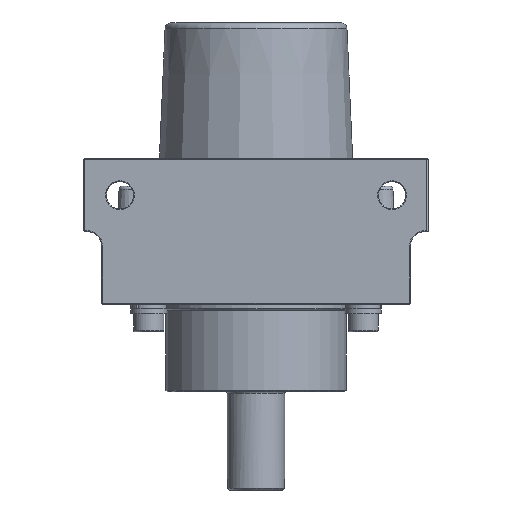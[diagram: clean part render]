
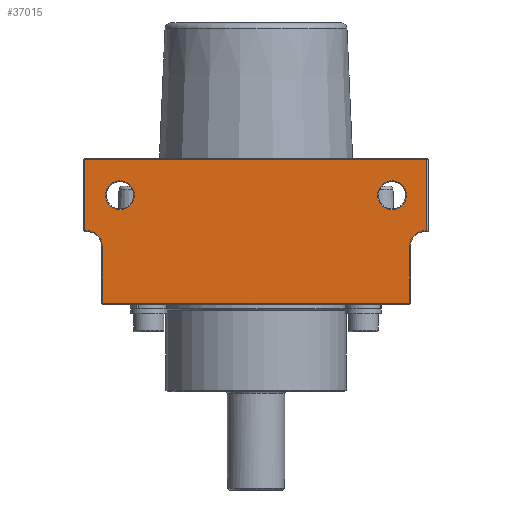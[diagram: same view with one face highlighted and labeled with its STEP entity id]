
A CAD part, left-side view. The second image highlights one B-rep face of the part: STEP entity #37015.
In plain terms, the highlighted planar face has unit normal (-1, 0, 0) as drawn and (0, -1, 0) by its records, which use the part's own axes.
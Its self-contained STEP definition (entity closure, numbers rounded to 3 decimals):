
#4250=FACE_BOUND('',#9218,.T.);
#4251=FACE_BOUND('',#9219,.T.);
#4790=PLANE('',#39880);
#6867=FACE_OUTER_BOUND('',#9217,.T.);
#9217=EDGE_LOOP('',(#34264,#34265,#34266,#34267,#34268,#34269,#34270,#34271,
#34272,#34273));
#9218=EDGE_LOOP('',(#34274));
#9219=EDGE_LOOP('',(#34275));
#11357=LINE('',#91111,#13536);
#11358=LINE('',#91113,#13537);
#11359=LINE('',#91115,#13538);
#11360=LINE('',#91117,#13539);
#11361=LINE('',#91121,#13540);
#11362=LINE('',#91123,#13541);
#11363=LINE('',#91125,#13542);
#11364=LINE('',#91128,#13543);
#13536=VECTOR('',#46446,10.);
#13537=VECTOR('',#46447,10.);
#13538=VECTOR('',#46448,10.);
#13539=VECTOR('',#46449,10.);
#13540=VECTOR('',#46452,10.);
#13541=VECTOR('',#46453,10.);
#13542=VECTOR('',#46454,10.);
#13543=VECTOR('',#46457,10.);
#14666=CIRCLE('',#39877,4.75);
#14669=CIRCLE('',#39881,5.25);
#14670=CIRCLE('',#39882,5.25);
#14671=CIRCLE('',#39883,4.75);
#18156=VERTEX_POINT('',#91101);
#18159=VERTEX_POINT('',#91109);
#18160=VERTEX_POINT('',#91110);
#18161=VERTEX_POINT('',#91112);
#18162=VERTEX_POINT('',#91114);
#18163=VERTEX_POINT('',#91116);
#18164=VERTEX_POINT('',#91118);
#18165=VERTEX_POINT('',#91120);
#18166=VERTEX_POINT('',#91122);
#18167=VERTEX_POINT('',#91124);
#18168=VERTEX_POINT('',#91126);
#18169=VERTEX_POINT('',#91129);
#23546=EDGE_CURVE('',#18156,#18156,#14666,.T.);
#23550=EDGE_CURVE('',#18159,#18160,#11357,.T.);
#23551=EDGE_CURVE('',#18161,#18159,#11358,.T.);
#23552=EDGE_CURVE('',#18162,#18161,#11359,.T.);
#23553=EDGE_CURVE('',#18163,#18162,#11360,.T.);
#23554=EDGE_CURVE('',#18164,#18163,#14669,.T.);
#23555=EDGE_CURVE('',#18165,#18164,#11361,.T.);
#23556=EDGE_CURVE('',#18166,#18165,#11362,.T.);
#23557=EDGE_CURVE('',#18167,#18166,#11363,.T.);
#23558=EDGE_CURVE('',#18168,#18167,#14670,.T.);
#23559=EDGE_CURVE('',#18160,#18168,#11364,.T.);
#23560=EDGE_CURVE('',#18169,#18169,#14671,.T.);
#34264=ORIENTED_EDGE('',*,*,#23550,.F.);
#34265=ORIENTED_EDGE('',*,*,#23551,.F.);
#34266=ORIENTED_EDGE('',*,*,#23552,.F.);
#34267=ORIENTED_EDGE('',*,*,#23553,.F.);
#34268=ORIENTED_EDGE('',*,*,#23554,.F.);
#34269=ORIENTED_EDGE('',*,*,#23555,.F.);
#34270=ORIENTED_EDGE('',*,*,#23556,.F.);
#34271=ORIENTED_EDGE('',*,*,#23557,.F.);
#34272=ORIENTED_EDGE('',*,*,#23558,.F.);
#34273=ORIENTED_EDGE('',*,*,#23559,.F.);
#34274=ORIENTED_EDGE('',*,*,#23560,.F.);
#34275=ORIENTED_EDGE('',*,*,#23546,.F.);
#37015=ADVANCED_FACE('',(#6867,#4250,#4251),#4790,.T.);
#39877=AXIS2_PLACEMENT_3D('',#91102,#46437,#46438);
#39880=AXIS2_PLACEMENT_3D('',#91108,#46444,#46445);
#39881=AXIS2_PLACEMENT_3D('',#91119,#46450,#46451);
#39882=AXIS2_PLACEMENT_3D('',#91127,#46455,#46456);
#39883=AXIS2_PLACEMENT_3D('',#91130,#46458,#46459);
#46437=DIRECTION('center_axis',(0.,-1.,0.));
#46438=DIRECTION('ref_axis',(-1.,0.,0.));
#46444=DIRECTION('center_axis',(0.,-1.,0.));
#46445=DIRECTION('ref_axis',(1.,0.,0.));
#46446=DIRECTION('',(0.,0.,-1.));
#46447=DIRECTION('',(1.,0.,0.));
#46448=DIRECTION('',(0.,0.,1.));
#46449=DIRECTION('',(-1.,0.,0.));
#46450=DIRECTION('center_axis',(0.,-1.,0.));
#46451=DIRECTION('ref_axis',(0.707,0.,0.707));
#46452=DIRECTION('',(0.,0.,1.));
#46453=DIRECTION('',(-1.,0.,0.));
#46454=DIRECTION('',(0.,0.,-1.));
#46455=DIRECTION('center_axis',(0.,-1.,0.));
#46456=DIRECTION('ref_axis',(-0.707,0.,0.707));
#46457=DIRECTION('',(-1.,0.,0.));
#46458=DIRECTION('center_axis',(0.,-1.,0.));
#46459=DIRECTION('ref_axis',(-1.,0.,0.));
#91101=CARTESIAN_POINT('',(-40.25,-56.,36.));
#91102=CARTESIAN_POINT('Origin',(-45.,-56.,36.));
#91108=CARTESIAN_POINT('Origin',(-51.,-56.,0.));
#91109=CARTESIAN_POINT('',(56.5,-56.,47.75));
#91110=CARTESIAN_POINT('',(56.5,-56.,24.25));
#91111=CARTESIAN_POINT('',(56.5,-56.,12.));
#91112=CARTESIAN_POINT('',(-56.75,-56.,47.75));
#91113=CARTESIAN_POINT('',(-25.5,-56.,47.75));
#91114=CARTESIAN_POINT('',(-56.75,-56.,24.25));
#91115=CARTESIAN_POINT('',(-56.75,-56.,12.));
#91116=CARTESIAN_POINT('',(-56.,-56.,24.25));
#91117=CARTESIAN_POINT('',(-51.,-56.,24.25));
#91118=CARTESIAN_POINT('',(-50.75,-56.,19.));
#91119=CARTESIAN_POINT('Origin',(-56.,-56.,19.));
#91120=CARTESIAN_POINT('',(-50.75,-56.,0.25));
#91121=CARTESIAN_POINT('',(-50.75,-56.,0.));
#91122=CARTESIAN_POINT('',(50.75,-56.,0.25));
#91123=CARTESIAN_POINT('',(-25.5,-56.,0.25));
#91124=CARTESIAN_POINT('',(50.75,-56.,19.));
#91125=CARTESIAN_POINT('',(50.75,-56.,0.));
#91126=CARTESIAN_POINT('',(56.,-56.,24.25));
#91127=CARTESIAN_POINT('Origin',(56.,-56.,19.));
#91128=CARTESIAN_POINT('',(3.,-56.,24.25));
#91129=CARTESIAN_POINT('',(49.75,-56.,36.));
#91130=CARTESIAN_POINT('Origin',(45.,-56.,36.));
